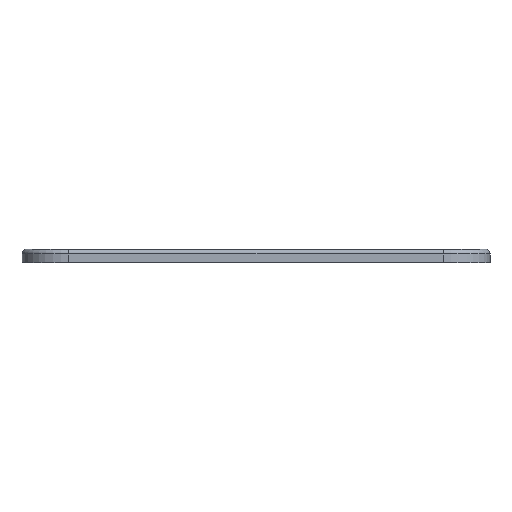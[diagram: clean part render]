
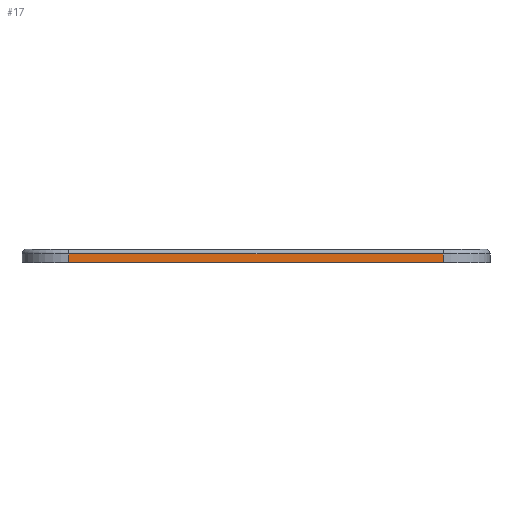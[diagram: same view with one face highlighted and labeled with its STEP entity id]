
A CAD part, left-side view. The second image highlights one B-rep face of the part: STEP entity #17.
In plain terms, the highlighted planar face has unit normal (-1, 0, 0).
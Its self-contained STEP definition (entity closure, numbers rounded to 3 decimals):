
#17 = ADVANCED_FACE('',(#18),#32,.F.);
#18 = FACE_BOUND('',#19,.F.);
#19 = EDGE_LOOP('',(#20,#55,#83,#111));
#20 = ORIENTED_EDGE('',*,*,#21,.F.);
#21 = EDGE_CURVE('',#22,#24,#26,.T.);
#22 = VERTEX_POINT('',#23);
#23 = CARTESIAN_POINT('',(-80.,-36.,27.));
#24 = VERTEX_POINT('',#25);
#25 = CARTESIAN_POINT('',(-80.,-36.,28.7));
#26 = SURFACE_CURVE('',#27,(#31,#43),.PCURVE_S1.);
#27 = LINE('',#28,#29);
#28 = CARTESIAN_POINT('',(-80.,-36.,27.));
#29 = VECTOR('',#30,1.);
#30 = DIRECTION('',(0.,0.,1.));
#31 = PCURVE('',#32,#37);
#32 = PLANE('',#33);
#33 = AXIS2_PLACEMENT_3D('',#34,#35,#36);
#34 = CARTESIAN_POINT('',(-80.,-45.,27.));
#35 = DIRECTION('',(1.,0.,0.));
#36 = DIRECTION('',(0.,0.,1.));
#37 = DEFINITIONAL_REPRESENTATION('',(#38),#42);
#38 = LINE('',#39,#40);
#39 = CARTESIAN_POINT('',(0.,-9.));
#40 = VECTOR('',#41,1.);
#41 = DIRECTION('',(1.,0.));
#42 = ( GEOMETRIC_REPRESENTATION_CONTEXT(2) 
PARAMETRIC_REPRESENTATION_CONTEXT() REPRESENTATION_CONTEXT('2D SPACE',''
  ) );
#43 = PCURVE('',#44,#49);
#44 = CYLINDRICAL_SURFACE('',#45,9.);
#45 = AXIS2_PLACEMENT_3D('',#46,#47,#48);
#46 = CARTESIAN_POINT('',(-71.,-36.,27.));
#47 = DIRECTION('',(0.,0.,1.));
#48 = DIRECTION('',(-1.,-0.,0.));
#49 = DEFINITIONAL_REPRESENTATION('',(#50),#54);
#50 = LINE('',#51,#52);
#51 = CARTESIAN_POINT('',(0.,0.));
#52 = VECTOR('',#53,1.);
#53 = DIRECTION('',(0.,1.));
#54 = ( GEOMETRIC_REPRESENTATION_CONTEXT(2) 
PARAMETRIC_REPRESENTATION_CONTEXT() REPRESENTATION_CONTEXT('2D SPACE',''
  ) );
#55 = ORIENTED_EDGE('',*,*,#56,.T.);
#56 = EDGE_CURVE('',#22,#57,#59,.T.);
#57 = VERTEX_POINT('',#58);
#58 = CARTESIAN_POINT('',(-80.,36.,27.));
#59 = SURFACE_CURVE('',#60,(#64,#71),.PCURVE_S1.);
#60 = LINE('',#61,#62);
#61 = CARTESIAN_POINT('',(-80.,-45.,27.));
#62 = VECTOR('',#63,1.);
#63 = DIRECTION('',(0.,1.,0.));
#64 = PCURVE('',#32,#65);
#65 = DEFINITIONAL_REPRESENTATION('',(#66),#70);
#66 = LINE('',#67,#68);
#67 = CARTESIAN_POINT('',(0.,0.));
#68 = VECTOR('',#69,1.);
#69 = DIRECTION('',(0.,-1.));
#70 = ( GEOMETRIC_REPRESENTATION_CONTEXT(2) 
PARAMETRIC_REPRESENTATION_CONTEXT() REPRESENTATION_CONTEXT('2D SPACE',''
  ) );
#71 = PCURVE('',#72,#77);
#72 = PLANE('',#73);
#73 = AXIS2_PLACEMENT_3D('',#74,#75,#76);
#74 = CARTESIAN_POINT('',(-80.,-45.,27.));
#75 = DIRECTION('',(0.,0.,1.));
#76 = DIRECTION('',(1.,0.,0.));
#77 = DEFINITIONAL_REPRESENTATION('',(#78),#82);
#78 = LINE('',#79,#80);
#79 = CARTESIAN_POINT('',(0.,0.));
#80 = VECTOR('',#81,1.);
#81 = DIRECTION('',(0.,1.));
#82 = ( GEOMETRIC_REPRESENTATION_CONTEXT(2) 
PARAMETRIC_REPRESENTATION_CONTEXT() REPRESENTATION_CONTEXT('2D SPACE',''
  ) );
#83 = ORIENTED_EDGE('',*,*,#84,.T.);
#84 = EDGE_CURVE('',#57,#85,#87,.T.);
#85 = VERTEX_POINT('',#86);
#86 = CARTESIAN_POINT('',(-80.,36.,28.7));
#87 = SURFACE_CURVE('',#88,(#92,#99),.PCURVE_S1.);
#88 = LINE('',#89,#90);
#89 = CARTESIAN_POINT('',(-80.,36.,27.));
#90 = VECTOR('',#91,1.);
#91 = DIRECTION('',(0.,0.,1.));
#92 = PCURVE('',#32,#93);
#93 = DEFINITIONAL_REPRESENTATION('',(#94),#98);
#94 = LINE('',#95,#96);
#95 = CARTESIAN_POINT('',(0.,-81.));
#96 = VECTOR('',#97,1.);
#97 = DIRECTION('',(1.,0.));
#98 = ( GEOMETRIC_REPRESENTATION_CONTEXT(2) 
PARAMETRIC_REPRESENTATION_CONTEXT() REPRESENTATION_CONTEXT('2D SPACE',''
  ) );
#99 = PCURVE('',#100,#105);
#100 = CYLINDRICAL_SURFACE('',#101,9.);
#101 = AXIS2_PLACEMENT_3D('',#102,#103,#104);
#102 = CARTESIAN_POINT('',(-71.,36.,27.));
#103 = DIRECTION('',(0.,0.,1.));
#104 = DIRECTION('',(-1.,-0.,0.));
#105 = DEFINITIONAL_REPRESENTATION('',(#106),#110);
#106 = LINE('',#107,#108);
#107 = CARTESIAN_POINT('',(-0.,0.));
#108 = VECTOR('',#109,1.);
#109 = DIRECTION('',(-0.,1.));
#110 = ( GEOMETRIC_REPRESENTATION_CONTEXT(2) 
PARAMETRIC_REPRESENTATION_CONTEXT() REPRESENTATION_CONTEXT('2D SPACE',''
  ) );
#111 = ORIENTED_EDGE('',*,*,#112,.T.);
#112 = EDGE_CURVE('',#85,#24,#113,.T.);
#113 = SURFACE_CURVE('',#114,(#118,#125),.PCURVE_S1.);
#114 = LINE('',#115,#116);
#115 = CARTESIAN_POINT('',(-80.,36.,28.7));
#116 = VECTOR('',#117,1.);
#117 = DIRECTION('',(-0.,-1.,-0.));
#118 = PCURVE('',#32,#119);
#119 = DEFINITIONAL_REPRESENTATION('',(#120),#124);
#120 = LINE('',#121,#122);
#121 = CARTESIAN_POINT('',(1.7,-81.));
#122 = VECTOR('',#123,1.);
#123 = DIRECTION('',(-0.,1.));
#124 = ( GEOMETRIC_REPRESENTATION_CONTEXT(2) 
PARAMETRIC_REPRESENTATION_CONTEXT() REPRESENTATION_CONTEXT('2D SPACE',''
  ) );
#125 = PCURVE('',#126,#131);
#126 = CYLINDRICAL_SURFACE('',#127,0.9);
#127 = AXIS2_PLACEMENT_3D('',#128,#129,#130);
#128 = CARTESIAN_POINT('',(-79.1,36.,28.7));
#129 = DIRECTION('',(-0.,-1.,-0.));
#130 = DIRECTION('',(0.,0.,1.));
#131 = DEFINITIONAL_REPRESENTATION('',(#132),#136);
#132 = LINE('',#133,#134);
#133 = CARTESIAN_POINT('',(1.571,0.));
#134 = VECTOR('',#135,1.);
#135 = DIRECTION('',(0.,1.));
#136 = ( GEOMETRIC_REPRESENTATION_CONTEXT(2) 
PARAMETRIC_REPRESENTATION_CONTEXT() REPRESENTATION_CONTEXT('2D SPACE',''
  ) );
